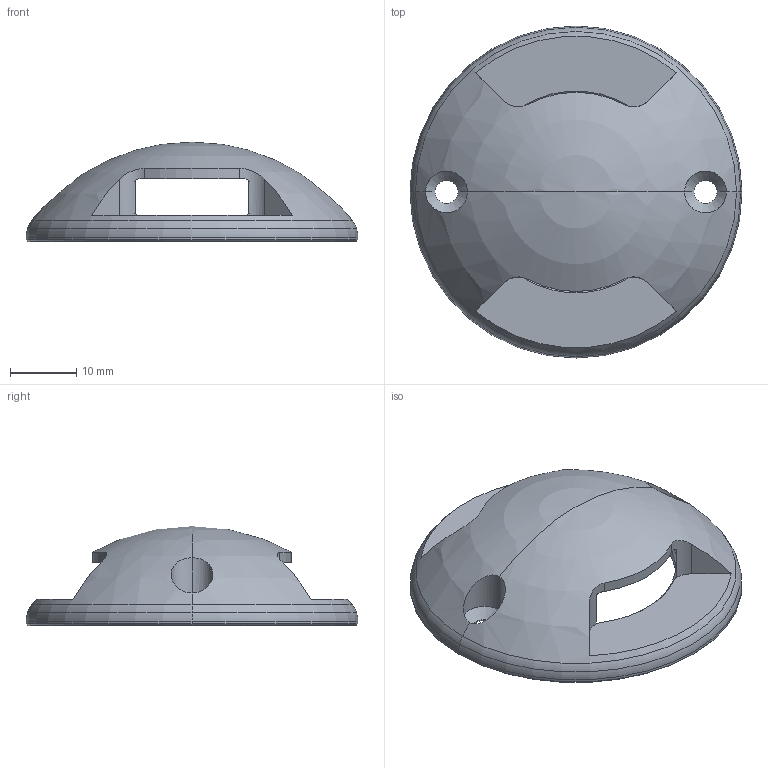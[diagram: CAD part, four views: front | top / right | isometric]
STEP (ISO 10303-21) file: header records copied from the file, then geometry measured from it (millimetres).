
FILE_DESCRIPTION((''),'2;1');
FILE_NAME('30224-81200_01_GHIERA_SW0001','2025-06-27T13:20:35',('Piccioli'),(''),'CREO PARAMETRIC BY PTC INC, 2025010','CREO PARAMETRIC BY PTC INC, 2025010','');
FILE_SCHEMA(('CONFIG_CONTROL_DESIGN'));
Length unit declared in the file: millimetre
Products named in the file (1): 30224-81200_01_GHIERA_SW0001
Bounding box: 50 x 50 x 15 mm (x, y, z)
Surface area: 5987.6 mm2 (no closed solid volume)
Topology: 0 solids, 1 shells, 78 faces, 195 edges, 112 vertices
Faces by surface type: cylinder 32, torus 18, cone 16, plane 10, sphere 2
Entity records: 2532 total; most frequent: CARTESIAN_POINT 627, DIRECTION 430, ORIENTED_EDGE 370, AXIS2_PLACEMENT_3D 187, EDGE_CURVE 185, VERTEX_POINT 112, CIRCLE 109, EDGE_LOOP 89
